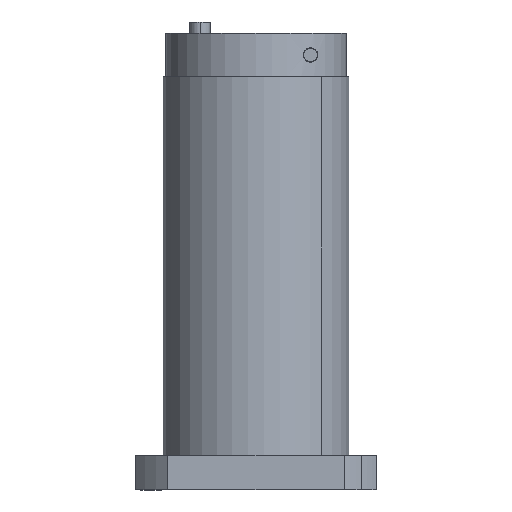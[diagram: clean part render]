
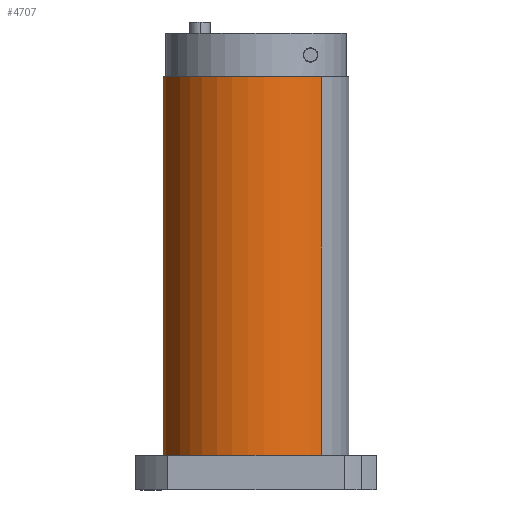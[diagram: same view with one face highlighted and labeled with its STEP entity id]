
A CAD part, left-side view. The second image highlights one B-rep face of the part: STEP entity #4707.
In plain terms, the highlighted cylindrical face has radius 32.5 mm (diameter 65 mm), a partial arc.
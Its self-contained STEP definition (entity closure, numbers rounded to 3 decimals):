
#39 = CARTESIAN_POINT ( 'NONE',  ( -37.019, -23.941, 153.078 ) ) ;
#477 = DIRECTION ( 'NONE',  ( -0.707, -0.707, 0. ) ) ;
#505 = AXIS2_PLACEMENT_3D ( 'NONE', #5804, #8485, #477 ) ;
#622 = FACE_OUTER_BOUND ( 'NONE', #5731, .T. ) ;
#1051 = EDGE_CURVE ( 'NONE', #1073, #5439, #7693, .T. ) ;
#1073 = VERTEX_POINT ( 'NONE', #3629 ) ;
#1384 = CARTESIAN_POINT ( 'NONE',  ( -37.019, -23.941, 219.078 ) ) ;
#1709 = CARTESIAN_POINT ( 'NONE',  ( -37.019, -23.941, 87.078 ) ) ;
#1735 = EDGE_CURVE ( 'NONE', #4817, #5439, #2774, .T. ) ;
#1848 = DIRECTION ( 'NONE',  ( 0., 0., -1. ) ) ;
#2522 = ORIENTED_EDGE ( 'NONE', *, *, #7924, .T. ) ;
#2662 = DIRECTION ( 'NONE',  ( -0.707, -0.707, 0. ) ) ;
#2774 = CIRCLE ( 'NONE', #505, 32.5 ) ;
#2821 = EDGE_CURVE ( 'NONE', #7808, #4817, #6062, .T. ) ;
#2978 = CARTESIAN_POINT ( 'NONE',  ( 8.943, 22.02, 153.078 ) ) ;
#3535 = DIRECTION ( 'NONE',  ( 0., 0., -1. ) ) ;
#3629 = CARTESIAN_POINT ( 'NONE',  ( 8.943, 22.02, 219.078 ) ) ;
#4254 = AXIS2_PLACEMENT_3D ( 'NONE', #5981, #8661, #2662 ) ;
#4512 = CYLINDRICAL_SURFACE ( 'NONE', #7166, 32.5 ) ;
#4707 = ADVANCED_FACE ( 'NONE', ( #622 ), #4512, .T. ) ;
#4814 = CARTESIAN_POINT ( 'NONE',  ( -14.038, -0.961, 153.078 ) ) ;
#4817 = VERTEX_POINT ( 'NONE', #1709 ) ;
#4857 = DIRECTION ( 'NONE',  ( -0.707, -0.707, 0. ) ) ;
#4934 = VECTOR ( 'NONE', #1848, 1000. ) ;
#5439 = VERTEX_POINT ( 'NONE', #7875 ) ;
#5731 = EDGE_LOOP ( 'NONE', ( #2522, #6327, #6437, #7379 ) ) ;
#5804 = CARTESIAN_POINT ( 'NONE',  ( -14.038, -0.961, 87.078 ) ) ;
#5981 = CARTESIAN_POINT ( 'NONE',  ( -14.038, -0.961, 219.078 ) ) ;
#6062 = LINE ( 'NONE', #39, #4934 ) ;
#6209 = CIRCLE ( 'NONE', #4254, 32.5 ) ;
#6327 = ORIENTED_EDGE ( 'NONE', *, *, #1051, .T. ) ;
#6437 = ORIENTED_EDGE ( 'NONE', *, *, #1735, .F. ) ;
#7166 = AXIS2_PLACEMENT_3D ( 'NONE', #4814, #3535, #4857 ) ;
#7379 = ORIENTED_EDGE ( 'NONE', *, *, #2821, .F. ) ;
#7693 = LINE ( 'NONE', #2978, #8093 ) ;
#7808 = VERTEX_POINT ( 'NONE', #1384 ) ;
#7875 = CARTESIAN_POINT ( 'NONE',  ( 8.943, 22.02, 87.078 ) ) ;
#7924 = EDGE_CURVE ( 'NONE', #7808, #1073, #6209, .T. ) ;
#8093 = VECTOR ( 'NONE', #8405, 1000. ) ;
#8405 = DIRECTION ( 'NONE',  ( 0., 0., -1. ) ) ;
#8485 = DIRECTION ( 'NONE',  ( 0., 0., -1. ) ) ;
#8661 = DIRECTION ( 'NONE',  ( 0., 0., -1. ) ) ;
